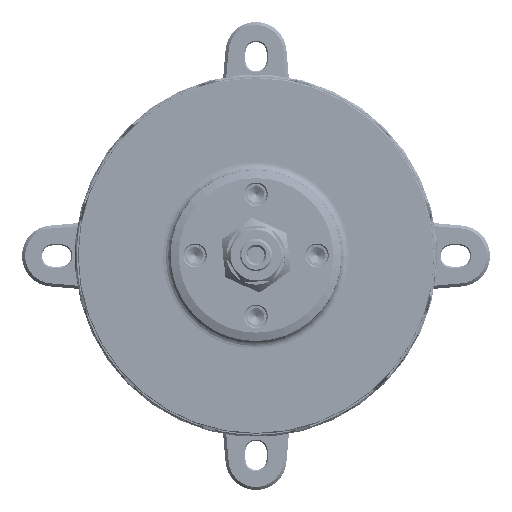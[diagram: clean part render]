
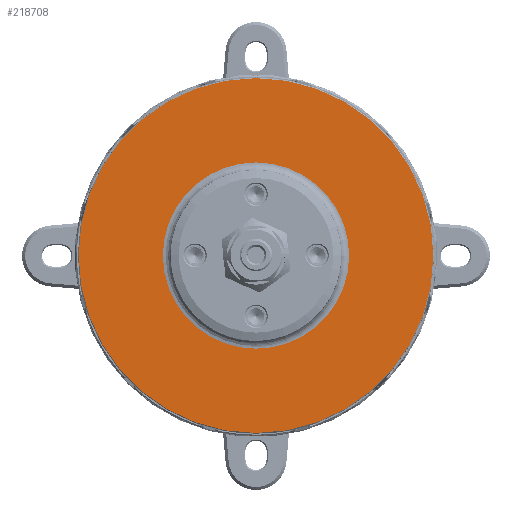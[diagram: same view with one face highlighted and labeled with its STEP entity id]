
A CAD part, top view. The second image highlights one B-rep face of the part: STEP entity #218708.
In plain terms, the highlighted planar face has unit normal (0, 0, 1).
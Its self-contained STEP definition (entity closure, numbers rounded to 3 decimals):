
#550 = DIRECTION ( 'NONE',  ( 1., 0., 0. ) ) ;
#719 = CARTESIAN_POINT ( 'NONE',  ( 0., -22.887, 17. ) ) ;
#5366 = EDGE_CURVE ( 'NONE', #312645, #227693, #84871, .T. ) ;
#15856 = EDGE_CURVE ( 'NONE', #264170, #138158, #62455, .T. ) ;
#19599 = DIRECTION ( 'NONE',  ( 0., 0., 1. ) ) ;
#20986 = CARTESIAN_POINT ( 'NONE',  ( 0., 0., 17. ) ) ;
#62455 = CIRCLE ( 'NONE', #344919, 43.6 ) ;
#64982 = CARTESIAN_POINT ( 'NONE',  ( 0., 0., 17. ) ) ;
#65620 = EDGE_LOOP ( 'NONE', ( #296487, #200908 ) ) ;
#74607 = ORIENTED_EDGE ( 'NONE', *, *, #173996, .F. ) ;
#75631 = CARTESIAN_POINT ( 'NONE',  ( 0., 0., 17. ) ) ;
#84871 = CIRCLE ( 'NONE', #102049, 22.887 ) ;
#102049 = AXIS2_PLACEMENT_3D ( 'NONE', #64982, #200422, #550 ) ;
#107573 = DIRECTION ( 'NONE',  ( -1., 0., 0. ) ) ;
#107887 = DIRECTION ( 'NONE',  ( -1., 0., 0. ) ) ;
#127518 = DIRECTION ( 'NONE',  ( 0., 0., -1. ) ) ;
#129829 = CARTESIAN_POINT ( 'NONE',  ( 43.6, 0., 17. ) ) ;
#138158 = VERTEX_POINT ( 'NONE', #129829 ) ;
#151086 = EDGE_LOOP ( 'NONE', ( #154656, #74607 ) ) ;
#152237 = AXIS2_PLACEMENT_3D ( 'NONE', #20986, #127518, #107573 ) ;
#154656 = ORIENTED_EDGE ( 'NONE', *, *, #5366, .F. ) ;
#157938 = FACE_OUTER_BOUND ( 'NONE', #65620, .T. ) ;
#173996 = EDGE_CURVE ( 'NONE', #227693, #312645, #347213, .T. ) ;
#187929 = AXIS2_PLACEMENT_3D ( 'NONE', #327670, #242818, #295287 ) ;
#188246 = CARTESIAN_POINT ( 'NONE',  ( -43.6, 0., 17. ) ) ;
#189191 = DIRECTION ( 'NONE',  ( 0., 0., -1. ) ) ;
#191469 = AXIS2_PLACEMENT_3D ( 'NONE', #75631, #19599, #321274 ) ;
#200422 = DIRECTION ( 'NONE',  ( 0., 0., 1. ) ) ;
#200908 = ORIENTED_EDGE ( 'NONE', *, *, #329298, .F. ) ;
#218708 = ADVANCED_FACE ( 'NONE', ( #349415, #157938 ), #266429, .F. ) ;
#227693 = VERTEX_POINT ( 'NONE', #719 ) ;
#232921 = CIRCLE ( 'NONE', #152237, 43.6 ) ;
#242818 = DIRECTION ( 'NONE',  ( 0., 0., -1. ) ) ;
#264170 = VERTEX_POINT ( 'NONE', #188246 ) ;
#266429 = PLANE ( 'NONE',  #187929 ) ;
#295287 = DIRECTION ( 'NONE',  ( 0., -1., 0. ) ) ;
#296487 = ORIENTED_EDGE ( 'NONE', *, *, #15856, .F. ) ;
#310020 = CARTESIAN_POINT ( 'NONE',  ( 0., 22.887, 17. ) ) ;
#312645 = VERTEX_POINT ( 'NONE', #310020 ) ;
#321274 = DIRECTION ( 'NONE',  ( 1., 0., 0. ) ) ;
#326468 = CARTESIAN_POINT ( 'NONE',  ( 0., 0., 17. ) ) ;
#327670 = CARTESIAN_POINT ( 'NONE',  ( -43.444, 0., 17. ) ) ;
#329298 = EDGE_CURVE ( 'NONE', #138158, #264170, #232921, .T. ) ;
#344919 = AXIS2_PLACEMENT_3D ( 'NONE', #326468, #189191, #107887 ) ;
#347213 = CIRCLE ( 'NONE', #191469, 22.887 ) ;
#349415 = FACE_BOUND ( 'NONE', #151086, .T. ) ;
